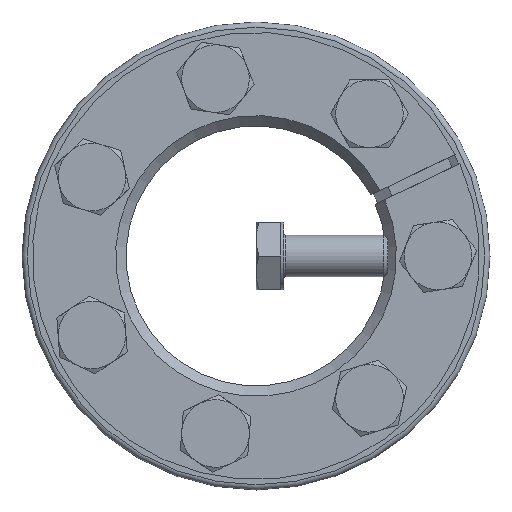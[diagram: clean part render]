
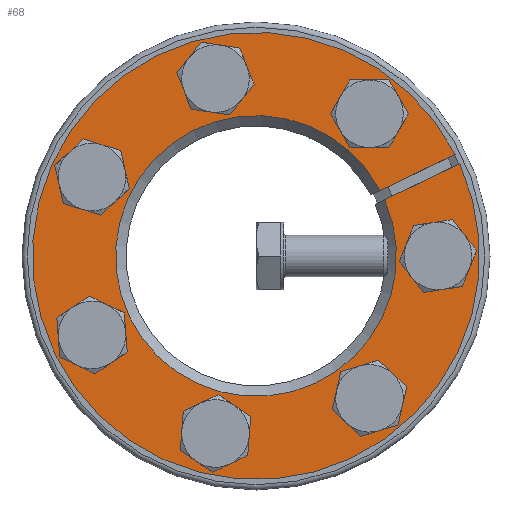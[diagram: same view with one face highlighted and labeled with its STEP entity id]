
A CAD part, front view. The second image highlights one B-rep face of the part: STEP entity #68.
In plain terms, the highlighted planar face has unit normal (0, -1, 0).
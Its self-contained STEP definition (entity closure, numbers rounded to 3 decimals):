
#68 = ADVANCED_FACE( '', ( #145, #146, #147, #148, #149, #150, #151, #152 ), #153, .F. );
#145 = FACE_BOUND( '', #264, .T. );
#146 = FACE_BOUND( '', #265, .T. );
#147 = FACE_BOUND( '', #266, .T. );
#148 = FACE_BOUND( '', #267, .T. );
#149 = FACE_BOUND( '', #268, .T. );
#150 = FACE_BOUND( '', #269, .T. );
#151 = FACE_BOUND( '', #270, .T. );
#152 = FACE_OUTER_BOUND( '', #271, .T. );
#153 = PLANE( '', #272 );
#264 = EDGE_LOOP( '', ( #412 ) );
#265 = EDGE_LOOP( '', ( #413 ) );
#266 = EDGE_LOOP( '', ( #414 ) );
#267 = EDGE_LOOP( '', ( #415 ) );
#268 = EDGE_LOOP( '', ( #416 ) );
#269 = EDGE_LOOP( '', ( #417 ) );
#270 = EDGE_LOOP( '', ( #418 ) );
#271 = EDGE_LOOP( '', ( #419, #420, #421, #422 ) );
#272 = AXIS2_PLACEMENT_3D( '', #423, #424, #425 );
#412 = ORIENTED_EDGE( '', *, *, #647, .T. );
#413 = ORIENTED_EDGE( '', *, *, #649, .T. );
#414 = ORIENTED_EDGE( '', *, *, #650, .T. );
#415 = ORIENTED_EDGE( '', *, *, #651, .T. );
#416 = ORIENTED_EDGE( '', *, *, #652, .T. );
#417 = ORIENTED_EDGE( '', *, *, #653, .T. );
#418 = ORIENTED_EDGE( '', *, *, #654, .T. );
#419 = ORIENTED_EDGE( '', *, *, #655, .T. );
#420 = ORIENTED_EDGE( '', *, *, #656, .T. );
#421 = ORIENTED_EDGE( '', *, *, #657, .F. );
#422 = ORIENTED_EDGE( '', *, *, #658, .T. );
#423 = CARTESIAN_POINT( '', ( 0., 0., 45. ) );
#424 = DIRECTION( '', ( 0., 1., 0. ) );
#425 = DIRECTION( '', ( 0., 0., 1. ) );
#647 = EDGE_CURVE( '', #779, #779, #780, .T. );
#649 = EDGE_CURVE( '', #782, #782, #783, .T. );
#650 = EDGE_CURVE( '', #784, #784, #785, .T. );
#651 = EDGE_CURVE( '', #786, #786, #787, .T. );
#652 = EDGE_CURVE( '', #788, #788, #789, .T. );
#653 = EDGE_CURVE( '', #790, #790, #791, .T. );
#654 = EDGE_CURVE( '', #792, #792, #793, .T. );
#655 = EDGE_CURVE( '', #794, #795, #796, .T. );
#656 = EDGE_CURVE( '', #795, #797, #798, .T. );
#657 = EDGE_CURVE( '', #799, #797, #800, .T. );
#658 = EDGE_CURVE( '', #799, #794, #801, .T. );
#779 = VERTEX_POINT( '', #1063 );
#780 = CIRCLE( '', #1064, 4. );
#782 = VERTEX_POINT( '', #1066 );
#783 = CIRCLE( '', #1067, 4. );
#784 = VERTEX_POINT( '', #1068 );
#785 = CIRCLE( '', #1069, 4. );
#786 = VERTEX_POINT( '', #1070 );
#787 = CIRCLE( '', #1071, 4. );
#788 = VERTEX_POINT( '', #1072 );
#789 = CIRCLE( '', #1073, 4. );
#790 = VERTEX_POINT( '', #1074 );
#791 = CIRCLE( '', #1075, 4. );
#792 = VERTEX_POINT( '', #1076 );
#793 = CIRCLE( '', #1077, 4. );
#794 = VERTEX_POINT( '', #1078 );
#795 = VERTEX_POINT( '', #1079 );
#796 = LINE( '', #1080, #1081 );
#797 = VERTEX_POINT( '', #1082 );
#798 = CIRCLE( '', #1083, 27. );
#799 = VERTEX_POINT( '', #1084 );
#800 = LINE( '', #1085, #1086 );
#801 = CIRCLE( '', #1087, 43. );
#1063 = CARTESIAN_POINT( '', ( 18.695, 0., -29.858 ) );
#1064 = AXIS2_PLACEMENT_3D( '', #1250, #1251, #1252 );
#1066 = CARTESIAN_POINT( '', ( -33.269, 0., -11.582 ) );
#1067 = AXIS2_PLACEMENT_3D( '', #1253, #1254, #1255 );
#1068 = CARTESIAN_POINT( '', ( -3.889, 0., 35.013 ) );
#1069 = AXIS2_PLACEMENT_3D( '', #1256, #1257, #1258 );
#1070 = CARTESIAN_POINT( '', ( 35., 0., -4. ) );
#1071 = AXIS2_PLACEMENT_3D( '', #1259, #1260, #1261 );
#1072 = CARTESIAN_POINT( '', ( 24.949, 0., 24.87 ) );
#1073 = AXIS2_PLACEMENT_3D( '', #1262, #1263, #1264 );
#1074 = CARTESIAN_POINT( '', ( -29.798, 0., 18.79 ) );
#1075 = AXIS2_PLACEMENT_3D( '', #1265, #1266, #1267 );
#1076 = CARTESIAN_POINT( '', ( -11.688, 0., -33.232 ) );
#1077 = AXIS2_PLACEMENT_3D( '', #1268, #1269, #1270 );
#1078 = CARTESIAN_POINT( '', ( 39.165, 0., 17.751 ) );
#1079 = CARTESIAN_POINT( '', ( 24.743, 0., 10.806 ) );
#1080 = CARTESIAN_POINT( '', ( 39.176, 0., 17.756 ) );
#1081 = VECTOR( '', #1271, 1000. );
#1082 = CARTESIAN_POINT( '', ( 23.876, 0., 12.608 ) );
#1083 = AXIS2_PLACEMENT_3D( '', #1272, #1273, #1274 );
#1084 = CARTESIAN_POINT( '', ( 38.297, 0., 19.553 ) );
#1085 = CARTESIAN_POINT( '', ( 38.308, 0., 19.558 ) );
#1086 = VECTOR( '', #1275, 1000. );
#1087 = AXIS2_PLACEMENT_3D( '', #1276, #1277, #1278 );
#1250 = CARTESIAN_POINT( '', ( 21.822, 0., -27.364 ) );
#1251 = DIRECTION( '', ( 0., 1., 0. ) );
#1252 = DIRECTION( '', ( -0.782, 0., -0.623 ) );
#1253 = CARTESIAN_POINT( '', ( -31.534, 0., -15.186 ) );
#1254 = DIRECTION( '', ( 0., 1., 0. ) );
#1255 = DIRECTION( '', ( -0.434, 0., 0.901 ) );
#1256 = CARTESIAN_POINT( '', ( -7.788, 0., 34.122 ) );
#1257 = DIRECTION( '', ( 0., 1., 0. ) );
#1258 = DIRECTION( '', ( 0.975, 0., 0.223 ) );
#1259 = CARTESIAN_POINT( '', ( 35., 0., 0. ) );
#1260 = DIRECTION( '', ( 0., 1., 0. ) );
#1261 = DIRECTION( '', ( 0., 0., -1. ) );
#1262 = CARTESIAN_POINT( '', ( 21.822, 0., 27.364 ) );
#1263 = DIRECTION( '', ( 0., 1., 0. ) );
#1264 = DIRECTION( '', ( 0.782, 0., -0.623 ) );
#1265 = CARTESIAN_POINT( '', ( -31.534, 0., 15.186 ) );
#1266 = DIRECTION( '', ( 0., 1., 0. ) );
#1267 = DIRECTION( '', ( 0.434, 0., 0.901 ) );
#1268 = CARTESIAN_POINT( '', ( -7.788, 0., -34.122 ) );
#1269 = DIRECTION( '', ( 0., 1., 0. ) );
#1270 = DIRECTION( '', ( -0.975, 0., 0.223 ) );
#1271 = DIRECTION( '', ( -0.901, 0., -0.434 ) );
#1272 = CARTESIAN_POINT( '', ( 0., 0., 0. ) );
#1273 = DIRECTION( '', ( 0., 1., 0. ) );
#1274 = DIRECTION( '', ( 0., 0., 1. ) );
#1275 = DIRECTION( '', ( -0.901, 0., -0.434 ) );
#1276 = CARTESIAN_POINT( '', ( 0., 0., 0. ) );
#1277 = DIRECTION( '', ( 0., -1., 0. ) );
#1278 = DIRECTION( '', ( 0., 0., -1. ) );
